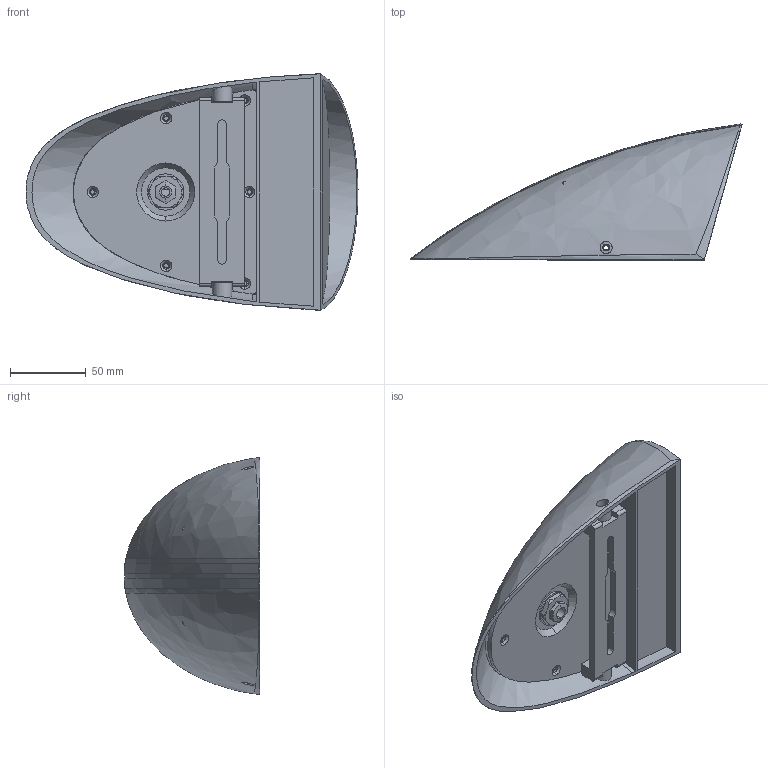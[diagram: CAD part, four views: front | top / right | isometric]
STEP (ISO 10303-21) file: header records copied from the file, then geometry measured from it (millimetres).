
FILE_DESCRIPTION((''),'2;1');
FILE_NAME('B7BC0166_ASM','2024-12-13T',('Administrator'),(''),'CREO PARAMETRIC BY PTC INC, 2014500','CREO PARAMETRIC BY PTC INC, 2014500','');
FILE_SCHEMA(('CONFIG_CONTROL_DESIGN'));
Length unit declared in the file: millimetre
Products named in the file (13): R7BCDTXGH; 7BCFSD; 7BC014; BACK-COVER; 7BC012; GLASS; ZHIJIA; 7BC015; B3BB-RUBBER; SCREW-M12; RUBBER-1; QUEEN_ASM; B7BC0166_ASM
Assembly tree (12 placements, depth 3):
  B7BC0166_ASM
    R7BCDTXGH
    7BCFSD
    7BC014
    BACK-COVER
    7BC012
    GLASS
    ZHIJIA
    QUEEN_ASM
      7BC015
      B3BB-RUBBER
      SCREW-M12
      RUBBER-1
Bounding box: 219.49 x 89.83 x 156.33 mm (x, y, z)
Volume: 421431.4 mm3; surface area: 196680.4 mm2
Topology: 11 solids, 11 shells, 918 faces, 2426 edges, 1595 vertices
Faces by surface type: plane 355, cylinder 299, cone 117, bspline 73, torus 49, extrusion 23, sphere 2
Entity records: 38299 total; most frequent: CARTESIAN_POINT 15226, ORIENTED_EDGE 4848, DIRECTION 4668, EDGE_CURVE 2424, AXIS2_PLACEMENT_3D 1717, VERTEX_POINT 1595, VECTOR 1234, LINE 1211
